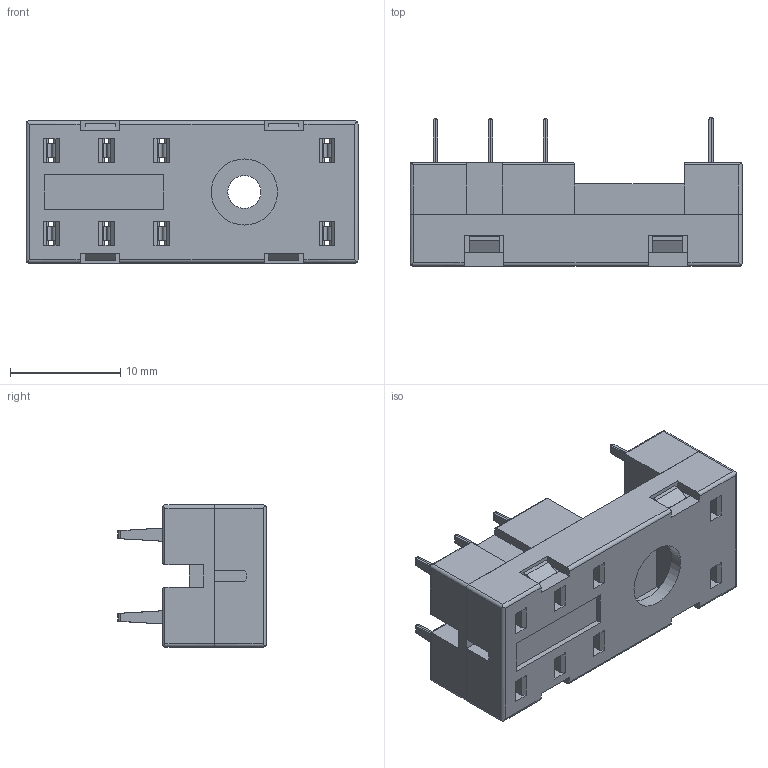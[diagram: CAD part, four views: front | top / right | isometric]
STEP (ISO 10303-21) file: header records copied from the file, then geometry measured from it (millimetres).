
FILE_DESCRIPTION(/* description */ (''),/* implementation_level */ '2;1');
FILE_NAME(/* name */ '14FF-2Z-A1.stp',/* time_stamp */ '2018-12-28T12:39:13+08:00',/* author */ (''),/* organization */ (''),/* preprocessor_version */ 'ST-DEVELOPER v15',/* originating_system */ 'SIEMENS PLM Software NX 8.5',/* authorisation */ '');
FILE_SCHEMA (('CONFIG_CONTROL_DESIGN'));
Length unit declared in the file: millimetre
Products named in the file (4): 77310258000_a; 86050055000_a; 80720275000_a; 14FF-2Z-A1
Assembly tree (10 placements, depth 2):
  14FF-2Z-A1
    80720275000_a
    86050055000_a
    77310258000_a  x8
Bounding box: 30.1 x 13.5 x 12.9 mm (x, y, z)
Volume: 2539.5 mm3; surface area: 3923.4 mm2
Topology: 18 solids, 18 shells, 601 faces, 1547 edges, 971 vertices
Faces by surface type: plane 496, cylinder 103, sphere 2
Full cylindrical faces by diameter (mm): 3 x1, 6 x1
Entity records: 12295 total; most frequent: CARTESIAN_POINT 2132, ORIENTED_EDGE 2048, DIRECTION 1859, EDGE_CURVE 1024, LINE 921, VECTOR 921, VERTEX_POINT 662, AXIS2_PLACEMENT_3D 469
